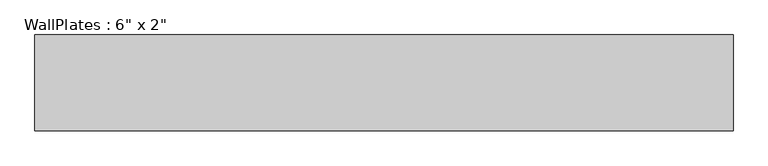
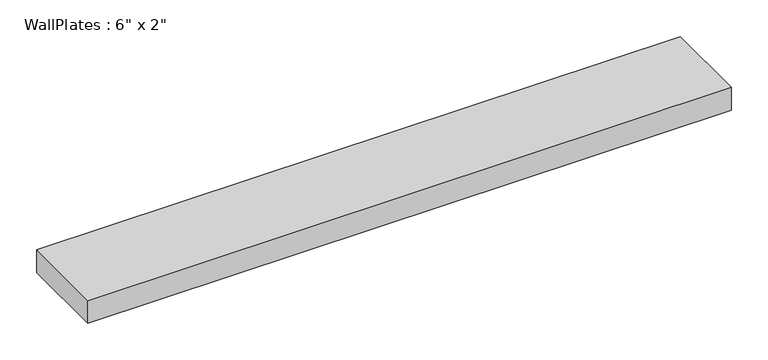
"""IFC4 building model written with IfcOpenShell, lengths in millimetres: beam geometry."""

from ifc_helpers import new_model, si_unit, frame, origin, place, context, project, spatial, polyline, outline, extrude, source, transform, mapped, element, save


def beam_4316c0f3(model_context):
    return source(origin(), model_context, "Body", "SweptSolid", [
        extrude(outline(polyline([(-508.01, -69.85), (-508.01, 69.85), (508.01, 69.85), (508.01, -69.85), (-508.01, -69.85)])), frame((0.0, 0.0, -19.05), z_axis=(0.0, 0.0, 1.0), x_axis=(1.0, 0.0, 0.0)), (0.0, 0.0, 1.0), 38.1),
    ])


if __name__ == "__main__":
    model = new_model("IFC4")
    model_context = context("Model", 3, world=origin())
    ifc_project = project(units=[si_unit("LENGTHUNIT", "METRE", prefix="MILLI")], contexts=[model_context])
    site = spatial("IfcSite", under=ifc_project)
    building = spatial("IfcBuilding", under=site)
    placement = place(None, origin())
    beam_shape = beam_4316c0f3(model_context)
    element("IfcBeam", 1, ObjectType="WallPlates : 6\" x 2\"", at=placement, inside=building, context=model_context, shape_type="MappedRepresentation", body=[
        mapped(beam_shape, transform((0.0, 0.0, 0.0), x_axis=(1.0, 0.0, 0.0), y_axis=(0.0, 1.0, 0.0), z_axis=(0.0, 0.0, 1.0))),
    ])
    save(model, "model.ifc")
